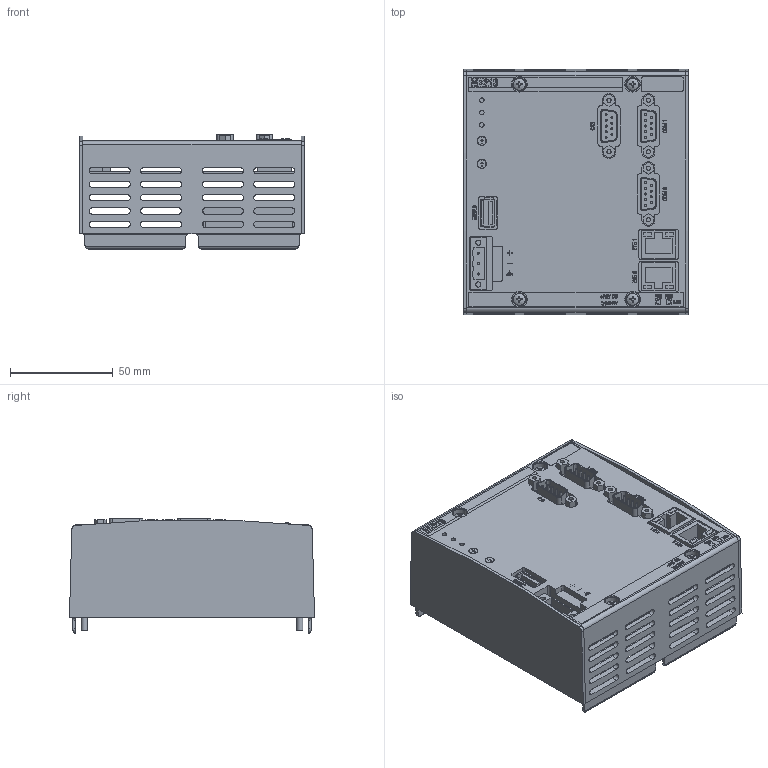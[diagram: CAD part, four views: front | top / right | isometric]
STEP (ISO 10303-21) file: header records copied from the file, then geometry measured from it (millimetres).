
FILE_DESCRIPTION(/* description */ ('MX213'),/* implementation_level */ '2;1');
FILE_NAME(/* name */ 'P:\Others\ePLAN_Library\Product\Daten\M200\Vorläufige Modelle\MX213_00031491-00\MX213.stp',/* time_stamp */ '2025-05-27T15:58:36+02:00',/* author */ ('schwendm'),/* organization */ ('2025 Bachmann electronic GmbH'),/* preprocessor_version */ 'ST-DEVELOPER v18.1',/* originating_system */ 'Autodesk Inventor 2022',/* authorisation */ '-');
FILE_SCHEMA (('AUTOMOTIVE_DESIGN { 1 0 10303 214 3 1 1 }'));
Products named in the file (1): 00035780
Bounding box: 109 x 119 x 55.45 mm (x, y, z)
Volume: 148724 mm3; surface area: 137207.1 mm2
Topology: 19 solids, 19 shells, 1874 faces, 5059 edges, 3366 vertices
Faces by surface type: plane 1158, bspline 395, cylinder 301, cone 16, sphere 4
Full cylindrical faces by diameter (mm): 1 x30, 2 x6, 2.2 x3, 2.32 x4, 2.46 x4, 2.5 x2, 3 x4, 3.5 x4, 4.1 x2, 4.5 x2, 6.6 x4, 7.6 x4
Entity records: 61913 total; most frequent: CARTESIAN_POINT 14632, ORIENTED_EDGE 10110, DIRECTION 7880, EDGE_CURVE 5055, LINE 3524, VECTOR 3524, VERTEX_POINT 3366, AXIS2_PLACEMENT_3D 2178
